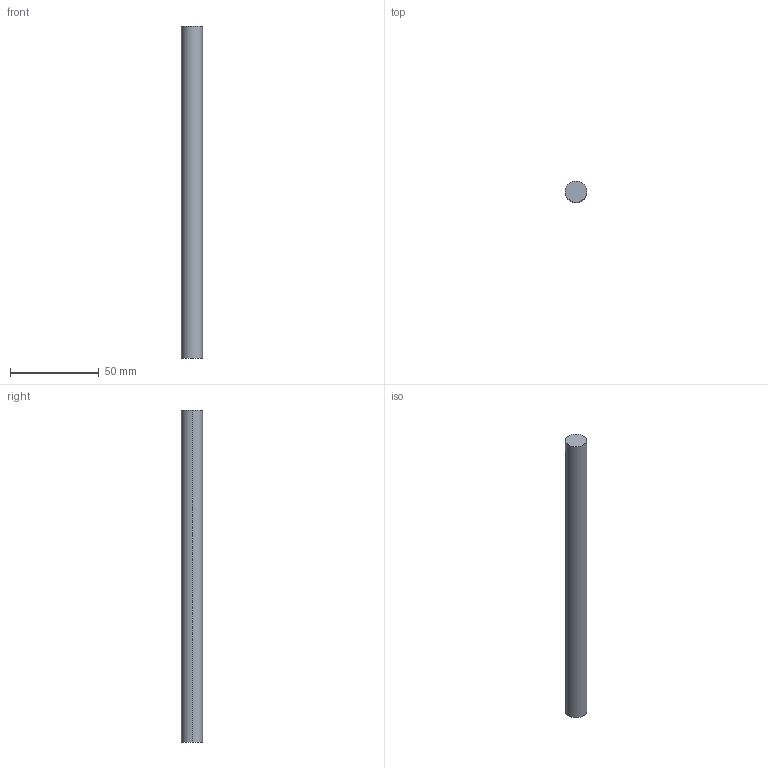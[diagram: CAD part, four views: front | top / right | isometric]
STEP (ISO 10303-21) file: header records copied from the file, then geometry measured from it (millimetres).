
FILE_DESCRIPTION (( 'STEP AP214' ), '1' );
FILE_NAME ('Innenschub H182 - S16_S17 - 300.step', '2010-09-07T14:55:56', ( 'grass' ), ( '' ), 'SwSTEP 2.0', 'SolidWorks 2010', '' );
FILE_SCHEMA (( 'AUTOMOTIVE_DESIGN' ));
Length unit declared in the file: millimetre
Products named in the file (1): Innenschub H182 - S16_S17 - 300
Bounding box: 12 x 12 x 187 mm (x, y, z)
Volume: 21149.2 mm3; surface area: 7275.9 mm2
Topology: 1 solids, 1 shells, 4 faces, 6 edges, 4 vertices
Faces by surface type: cylinder 2, plane 2
Entity records: 128 total; most frequent: DIRECTION 20, CARTESIAN_POINT 15, ORIENTED_EDGE 12, AXIS2_PLACEMENT_3D 9, EDGE_CURVE 6, ADVANCED_FACE 4, FACE_OUTER_BOUND 4, EDGE_LOOP 4
